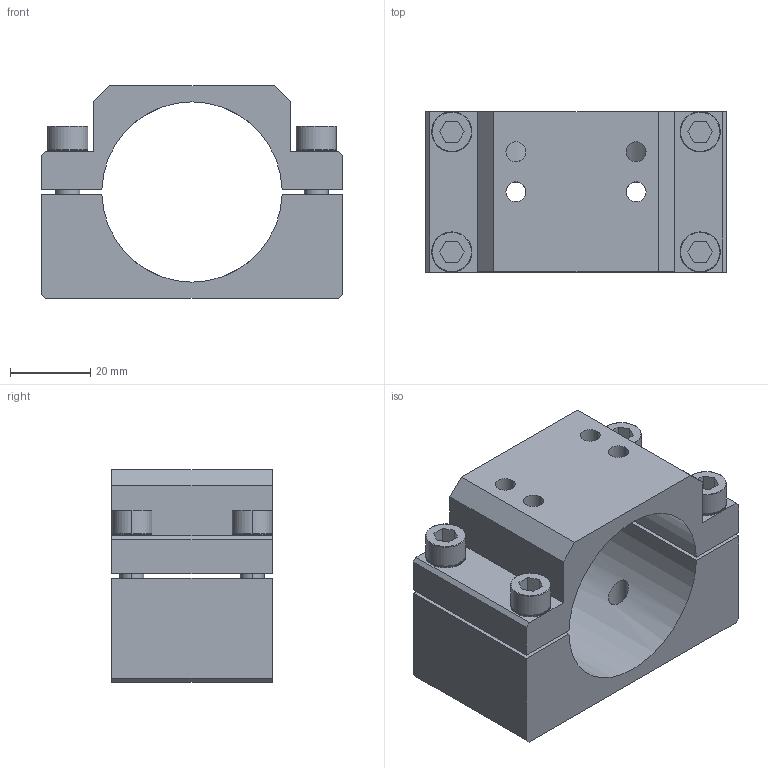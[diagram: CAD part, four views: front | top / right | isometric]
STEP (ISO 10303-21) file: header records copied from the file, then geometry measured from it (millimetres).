
FILE_DESCRIPTION (( 'STEP AP214' ), '1' );
FILE_NAME ('SCE3-N20T.STEP', '2023-01-13T09:18:52', ( 'Windows User' ), ( 'P R C' ), 'SwSTEP 2.0', 'SolidWorks 2019', '' );
FILE_SCHEMA (( 'AUTOMOTIVE_DESIGN' ));
Length unit declared in the file: millimetre
Products named in the file (4): SCE3-N20T; SCE3-N20; PTS-M6; PTC-M6L16
Assembly tree (9 placements, depth 2):
  SCE3-N20T
    SCE3-N20
    PTC-M6L16  x4
    PTS-M6  x4
Bounding box: 75 x 40 x 53 mm (x, y, z)
Volume: 75112.1 mm3; surface area: 27763.9 mm2
Topology: 10 solids, 10 shells, 790 faces, 2302 edges, 1532 vertices
Faces by surface type: plane 704, cylinder 62, cone 24
Entity records: 8705 total; most frequent: CARTESIAN_POINT 1744, DIRECTION 1410, ORIENTED_EDGE 1376, EDGE_CURVE 688, AXIS2_PLACEMENT_3D 484, VERTEX_POINT 458, LINE 442, VECTOR 442
